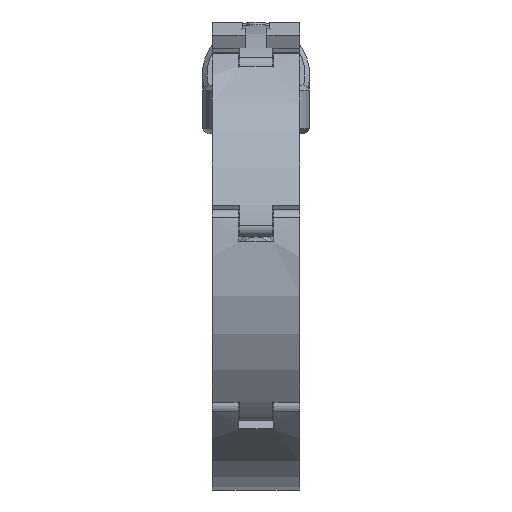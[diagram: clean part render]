
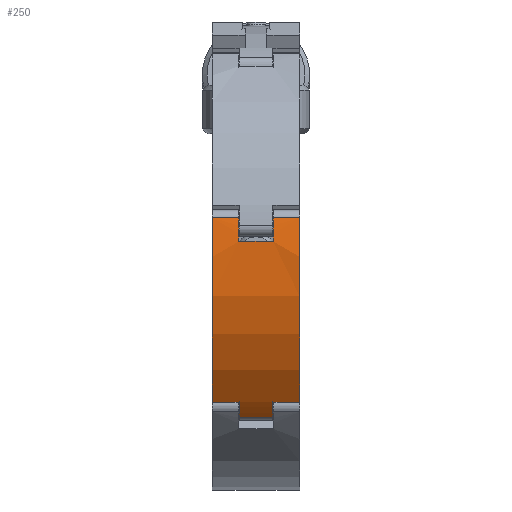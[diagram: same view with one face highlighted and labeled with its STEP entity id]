
A CAD part, left-side view. The second image highlights one B-rep face of the part: STEP entity #250.
In plain terms, the highlighted cylindrical face has radius 47.5 mm (diameter 95 mm), a partial arc.
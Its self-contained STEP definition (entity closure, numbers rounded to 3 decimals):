
#250 = ADVANCED_FACE( '', ( #352 ), #353, .T. );
#352 = FACE_OUTER_BOUND( '', #525, .T. );
#353 = CYLINDRICAL_SURFACE( '', #526, 47.5 );
#525 = EDGE_LOOP( '', ( #725, #726, #727, #728, #729, #730, #731, #732, #733, #734, #735, #736 ) );
#526 = AXIS2_PLACEMENT_3D( '', #737, #738, #739 );
#725 = ORIENTED_EDGE( '', *, *, #1233, .F. );
#726 = ORIENTED_EDGE( '', *, *, #1221, .T. );
#727 = ORIENTED_EDGE( '', *, *, #1214, .T. );
#728 = ORIENTED_EDGE( '', *, *, #1234, .F. );
#729 = ORIENTED_EDGE( '', *, *, #1235, .T. );
#730 = ORIENTED_EDGE( '', *, *, #1236, .T. );
#731 = ORIENTED_EDGE( '', *, *, #1237, .F. );
#732 = ORIENTED_EDGE( '', *, *, #1232, .T. );
#733 = ORIENTED_EDGE( '', *, *, #1227, .T. );
#734 = ORIENTED_EDGE( '', *, *, #1238, .T. );
#735 = ORIENTED_EDGE( '', *, *, #1239, .F. );
#736 = ORIENTED_EDGE( '', *, *, #1240, .F. );
#737 = CARTESIAN_POINT( '', ( 0., -9., 0. ) );
#738 = DIRECTION( '', ( 0., -1., 0. ) );
#739 = DIRECTION( '', ( 0., 0., 1. ) );
#1214 = EDGE_CURVE( '', #1380, #1381, #1382, .T. );
#1221 = EDGE_CURVE( '', #1394, #1380, #1395, .F. );
#1227 = EDGE_CURVE( '', #1406, #1404, #1407, .F. );
#1232 = EDGE_CURVE( '', #1411, #1406, #1415, .T. );
#1233 = EDGE_CURVE( '', #1394, #1416, #1417, .T. );
#1234 = EDGE_CURVE( '', #1418, #1381, #1419, .T. );
#1235 = EDGE_CURVE( '', #1418, #1420, #1421, .T. );
#1236 = EDGE_CURVE( '', #1420, #1422, #1423, .T. );
#1237 = EDGE_CURVE( '', #1411, #1422, #1424, .F. );
#1238 = EDGE_CURVE( '', #1404, #1425, #1426, .T. );
#1239 = EDGE_CURVE( '', #1427, #1425, #1428, .T. );
#1240 = EDGE_CURVE( '', #1416, #1427, #1429, .T. );
#1380 = VERTEX_POINT( '', #1645 );
#1381 = VERTEX_POINT( '', #1646 );
#1382 = CIRCLE( '', #1647, 47.5 );
#1394 = VERTEX_POINT( '', #1662 );
#1395 = LINE( '', #1663, #1664 );
#1404 = VERTEX_POINT( '', #1675 );
#1406 = VERTEX_POINT( '', #1677 );
#1407 = CIRCLE( '', #1678, 47.5 );
#1411 = VERTEX_POINT( '', #1683 );
#1415 = LINE( '', #1689, #1690 );
#1416 = VERTEX_POINT( '', #1691 );
#1417 = CIRCLE( '', #1692, 47.5 );
#1418 = VERTEX_POINT( '', #1693 );
#1419 = LINE( '', #1694, #1695 );
#1420 = VERTEX_POINT( '', #1696 );
#1421 = CIRCLE( '', #1697, 47.5 );
#1422 = VERTEX_POINT( '', #1698 );
#1423 = LINE( '', #1699, #1700 );
#1424 = CIRCLE( '', #1701, 47.5 );
#1425 = VERTEX_POINT( '', #1702 );
#1426 = LINE( '', #1703, #1704 );
#1427 = VERTEX_POINT( '', #1705 );
#1428 = CIRCLE( '', #1706, 47.5 );
#1429 = LINE( '', #1707, #1708 );
#1645 = CARTESIAN_POINT( '', ( -24.317, -3.5, 40.803 ) );
#1646 = CARTESIAN_POINT( '', ( -20.636, -3.5, 42.783 ) );
#1647 = AXIS2_PLACEMENT_3D( '', #2048, #2049, #2050 );
#1662 = CARTESIAN_POINT( '', ( -24.317, 3.5, 40.803 ) );
#1663 = CARTESIAN_POINT( '', ( -24.317, -9., 40.803 ) );
#1664 = VECTOR( '', #2063, 1000. );
#1675 = CARTESIAN_POINT( '', ( 18.736, 3.55, 43.649 ) );
#1677 = CARTESIAN_POINT( '', ( 14.106, 3.55, 45.357 ) );
#1678 = AXIS2_PLACEMENT_3D( '', #2075, #2076, #2077 );
#1683 = CARTESIAN_POINT( '', ( 14.106, -3.55, 45.357 ) );
#1689 = CARTESIAN_POINT( '', ( 14.106, -9., 45.357 ) );
#1690 = VECTOR( '', #2084, 1000. );
#1691 = CARTESIAN_POINT( '', ( -20.636, 3.5, 42.783 ) );
#1692 = AXIS2_PLACEMENT_3D( '', #2085, #2086, #2087 );
#1693 = CARTESIAN_POINT( '', ( -20.636, -9., 42.783 ) );
#1694 = CARTESIAN_POINT( '', ( -20.636, -9., 42.783 ) );
#1695 = VECTOR( '', #2088, 1000. );
#1696 = CARTESIAN_POINT( '', ( 18.736, -9., 43.649 ) );
#1697 = AXIS2_PLACEMENT_3D( '', #2089, #2090, #2091 );
#1698 = CARTESIAN_POINT( '', ( 18.736, -3.55, 43.649 ) );
#1699 = CARTESIAN_POINT( '', ( 18.736, -9., 43.649 ) );
#1700 = VECTOR( '', #2092, 1000. );
#1701 = AXIS2_PLACEMENT_3D( '', #2093, #2094, #2095 );
#1702 = CARTESIAN_POINT( '', ( 18.736, 9., 43.649 ) );
#1703 = CARTESIAN_POINT( '', ( 18.736, -9., 43.649 ) );
#1704 = VECTOR( '', #2096, 1000. );
#1705 = CARTESIAN_POINT( '', ( -20.636, 9., 42.783 ) );
#1706 = AXIS2_PLACEMENT_3D( '', #2097, #2098, #2099 );
#1707 = CARTESIAN_POINT( '', ( -20.636, -9., 42.783 ) );
#1708 = VECTOR( '', #2100, 1000. );
#2048 = CARTESIAN_POINT( '', ( 0., -3.5, 0. ) );
#2049 = DIRECTION( '', ( 0., 1., 0. ) );
#2050 = DIRECTION( '', ( 1., 0., 0. ) );
#2063 = DIRECTION( '', ( 0., 1., 0. ) );
#2075 = CARTESIAN_POINT( '', ( 0., 3.55, 0. ) );
#2076 = DIRECTION( '', ( 0., -1., 0. ) );
#2077 = DIRECTION( '', ( 0., 0., -1. ) );
#2084 = DIRECTION( '', ( 0., 1., 0. ) );
#2085 = CARTESIAN_POINT( '', ( 0., 3.5, 0. ) );
#2086 = DIRECTION( '', ( 0., 1., 0. ) );
#2087 = DIRECTION( '', ( 1., 0., 0. ) );
#2088 = DIRECTION( '', ( 0., 1., 0. ) );
#2089 = CARTESIAN_POINT( '', ( 0., -9., 0. ) );
#2090 = DIRECTION( '', ( 0., 1., 0. ) );
#2091 = DIRECTION( '', ( 1., 0., 0. ) );
#2092 = DIRECTION( '', ( 0., 1., 0. ) );
#2093 = CARTESIAN_POINT( '', ( 0., -3.55, 0. ) );
#2094 = DIRECTION( '', ( 0., -1., 0. ) );
#2095 = DIRECTION( '', ( 0., 0., -1. ) );
#2096 = DIRECTION( '', ( 0., 1., 0. ) );
#2097 = CARTESIAN_POINT( '', ( 0., 9., 0. ) );
#2098 = DIRECTION( '', ( 0., 1., 0. ) );
#2099 = DIRECTION( '', ( 1., 0., 0. ) );
#2100 = DIRECTION( '', ( 0., 1., 0. ) );
